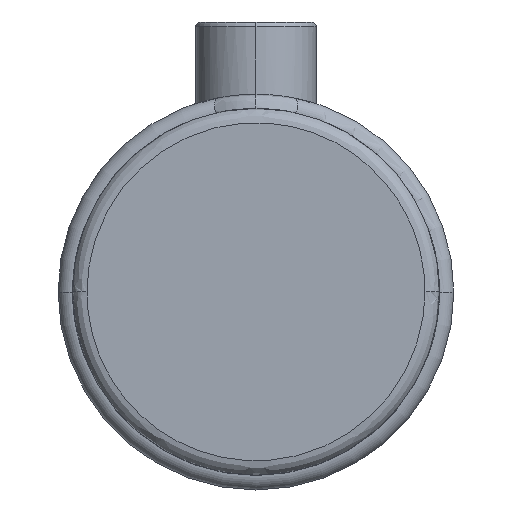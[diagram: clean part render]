
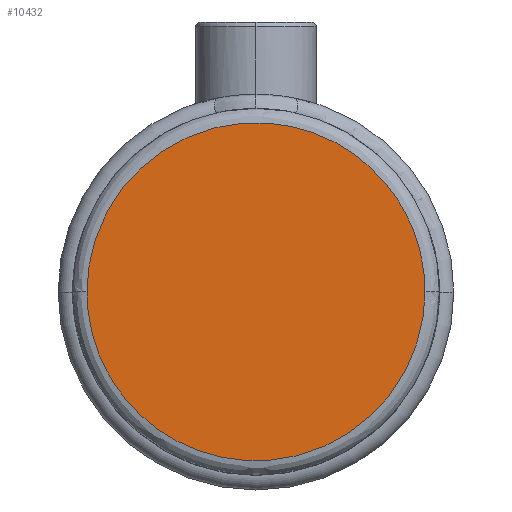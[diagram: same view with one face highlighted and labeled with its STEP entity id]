
A CAD part, top view. The second image highlights one B-rep face of the part: STEP entity #10432.
In plain terms, the highlighted planar face has unit normal (0, 0, 1).
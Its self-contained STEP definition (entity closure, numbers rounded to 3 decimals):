
#825 = CARTESIAN_POINT ( 'NONE',  ( -35.1, 0., 50. ) ) ;
#1743 = DIRECTION ( 'NONE',  ( 0., 0., 1. ) ) ;
#1965 = CARTESIAN_POINT ( 'NONE',  ( -35.1, 70.2, 50. ) ) ;
#2372 = ORIENTED_EDGE ( 'NONE', *, *, #5600, .F. ) ;
#2688 =( BOUNDED_CURVE ( )  B_SPLINE_CURVE ( 3, ( #5773, #5747, #5126, #5787 ),
 .UNSPECIFIED., .F., .T. ) 
 B_SPLINE_CURVE_WITH_KNOTS ( ( 4, 4 ),
 ( 0.25, 0.75 ),
 .UNSPECIFIED. ) 
 CURVE ( )  GEOMETRIC_REPRESENTATION_ITEM ( )  RATIONAL_B_SPLINE_CURVE ( ( 1., 0.333, 0.333, 1. ) ) 
 REPRESENTATION_ITEM ( '' )  );
#3348 = EDGE_CURVE ( 'NONE', #8556, #5895, #2688, .T. ) ;
#3587 = CARTESIAN_POINT ( 'NONE',  ( 35.1, 70.2, 50. ) ) ;
#3727 = CARTESIAN_POINT ( 'NONE',  ( -35.1, 0., 50. ) ) ;
#3773 = EDGE_LOOP ( 'NONE', ( #5621, #2372 ) ) ;
#3784 = CARTESIAN_POINT ( 'NONE',  ( 35.1, 0., 50. ) ) ;
#4923 = CARTESIAN_POINT ( 'NONE',  ( 0., 19.05, 50. ) ) ;
#5126 = CARTESIAN_POINT ( 'NONE',  ( -35.1, -70.2, 50. ) ) ;
#5600 = EDGE_CURVE ( 'NONE', #5895, #8556, #8146, .T. ) ;
#5621 = ORIENTED_EDGE ( 'NONE', *, *, #3348, .F. ) ;
#5747 = CARTESIAN_POINT ( 'NONE',  ( 35.1, -70.2, 50. ) ) ;
#5773 = CARTESIAN_POINT ( 'NONE',  ( 35.1, 0., 50. ) ) ;
#5787 = CARTESIAN_POINT ( 'NONE',  ( -35.1, 0., 50. ) ) ;
#5895 = VERTEX_POINT ( 'NONE', #3727 ) ;
#7663 = DIRECTION ( 'NONE',  ( 1., 0., 0. ) ) ;
#8146 =( BOUNDED_CURVE ( )  B_SPLINE_CURVE ( 3, ( #825, #1965, #3587, #9601 ),
 .UNSPECIFIED., .F., .T. ) 
 B_SPLINE_CURVE_WITH_KNOTS ( ( 4, 4 ),
 ( 0.75, 1.25 ),
 .UNSPECIFIED. ) 
 CURVE ( )  GEOMETRIC_REPRESENTATION_ITEM ( )  RATIONAL_B_SPLINE_CURVE ( ( 1., 0.333, 0.333, 1. ) ) 
 REPRESENTATION_ITEM ( '' )  );
#8556 = VERTEX_POINT ( 'NONE', #3784 ) ;
#9601 = CARTESIAN_POINT ( 'NONE',  ( 35.1, 0., 50. ) ) ;
#10180 = PLANE ( 'NONE',  #10307 ) ;
#10307 = AXIS2_PLACEMENT_3D ( 'NONE', #4923, #1743, #7663 ) ;
#10432 = ADVANCED_FACE ( 'NONE', ( #10804 ), #10180, .T. ) ;
#10804 = FACE_OUTER_BOUND ( 'NONE', #3773, .T. ) ;
